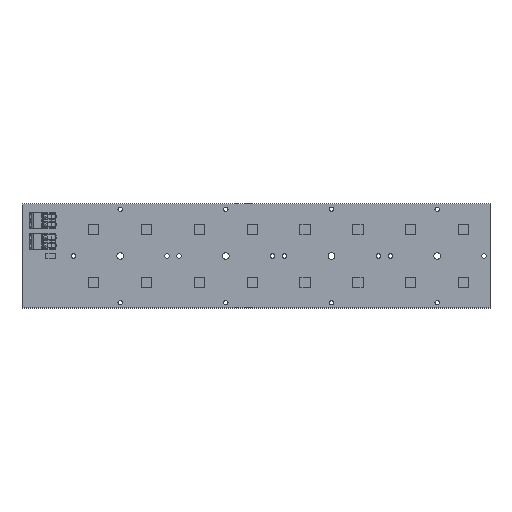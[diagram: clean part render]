
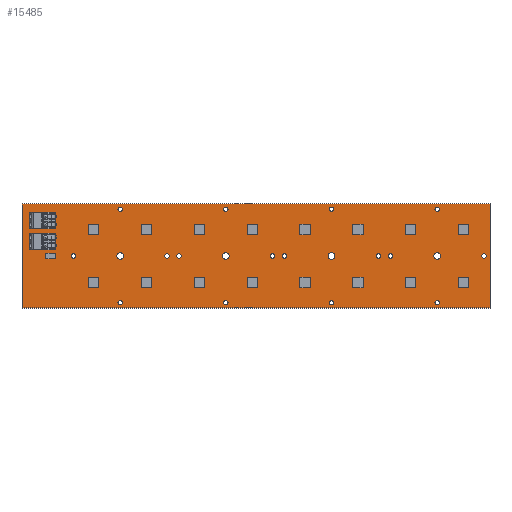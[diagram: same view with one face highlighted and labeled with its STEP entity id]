
A CAD part, top view. The second image highlights one B-rep face of the part: STEP entity #15485.
In plain terms, the highlighted planar face has unit normal (0, 0, 1).
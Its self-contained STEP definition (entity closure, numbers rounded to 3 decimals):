
#14636 = VERTEX_POINT('',#14637);
#14637 = CARTESIAN_POINT('',(0.,0.,0.));
#14643 = EDGE_CURVE('',#14636,#14644,#14646,.T.);
#14644 = VERTEX_POINT('',#14645);
#14645 = CARTESIAN_POINT('',(0.,50.,0.));
#14646 = LINE('',#14647,#14648);
#14647 = CARTESIAN_POINT('',(0.,0.,0.));
#14648 = VECTOR('',#14649,1.);
#14649 = DIRECTION('',(0.,1.,0.));
#14674 = EDGE_CURVE('',#14644,#14675,#14677,.T.);
#14675 = VERTEX_POINT('',#14676);
#14676 = CARTESIAN_POINT('',(225.,50.,0.));
#14677 = LINE('',#14678,#14679);
#14678 = CARTESIAN_POINT('',(0.,50.,0.));
#14679 = VECTOR('',#14680,1.);
#14680 = DIRECTION('',(1.,0.,0.));
#14705 = EDGE_CURVE('',#14675,#14706,#14708,.T.);
#14706 = VERTEX_POINT('',#14707);
#14707 = CARTESIAN_POINT('',(225.,0.,0.));
#14708 = LINE('',#14709,#14710);
#14709 = CARTESIAN_POINT('',(225.,50.,0.));
#14710 = VECTOR('',#14711,1.);
#14711 = DIRECTION('',(0.,-1.,0.));
#14736 = EDGE_CURVE('',#14706,#14636,#14737,.T.);
#14737 = LINE('',#14738,#14739);
#14738 = CARTESIAN_POINT('',(225.,0.,0.));
#14739 = VECTOR('',#14740,1.);
#14740 = DIRECTION('',(-1.,0.,0.));
#14760 = VERTEX_POINT('',#14761);
#14761 = CARTESIAN_POINT('',(48.25,2.5,0.));
#14767 = EDGE_CURVE('',#14760,#14760,#14768,.T.);
#14768 = CIRCLE('',#14769,1.05);
#14769 = AXIS2_PLACEMENT_3D('',#14770,#14771,#14772);
#14770 = CARTESIAN_POINT('',(47.2,2.5,0.));
#14771 = DIRECTION('',(0.,0.,1.));
#14772 = DIRECTION('',(1.,0.,0.));
#14793 = VERTEX_POINT('',#14794);
#14794 = CARTESIAN_POINT('',(25.75,25.,0.));
#14800 = EDGE_CURVE('',#14793,#14793,#14801,.T.);
#14801 = CIRCLE('',#14802,1.05);
#14802 = AXIS2_PLACEMENT_3D('',#14803,#14804,#14805);
#14803 = CARTESIAN_POINT('',(24.7,25.,0.));
#14804 = DIRECTION('',(0.,0.,1.));
#14805 = DIRECTION('',(1.,0.,0.));
#14826 = VERTEX_POINT('',#14827);
#14827 = CARTESIAN_POINT('',(99.05,2.5,0.));
#14833 = EDGE_CURVE('',#14826,#14826,#14834,.T.);
#14834 = CIRCLE('',#14835,1.05);
#14835 = AXIS2_PLACEMENT_3D('',#14836,#14837,#14838);
#14836 = CARTESIAN_POINT('',(98.,2.5,0.));
#14837 = DIRECTION('',(0.,0.,1.));
#14838 = DIRECTION('',(1.,0.,0.));
#14859 = VERTEX_POINT('',#14860);
#14860 = CARTESIAN_POINT('',(48.8,25.,0.));
#14866 = EDGE_CURVE('',#14859,#14859,#14867,.T.);
#14867 = CIRCLE('',#14868,1.6);
#14868 = AXIS2_PLACEMENT_3D('',#14869,#14870,#14871);
#14869 = CARTESIAN_POINT('',(47.2,25.,0.));
#14870 = DIRECTION('',(0.,0.,1.));
#14871 = DIRECTION('',(1.,0.,0.));
#14892 = VERTEX_POINT('',#14893);
#14893 = CARTESIAN_POINT('',(99.6,25.,0.));
#14899 = EDGE_CURVE('',#14892,#14892,#14900,.T.);
#14900 = CIRCLE('',#14901,1.6);
#14901 = AXIS2_PLACEMENT_3D('',#14902,#14903,#14904);
#14902 = CARTESIAN_POINT('',(98.,25.,0.));
#14903 = DIRECTION('',(0.,0.,1.));
#14904 = DIRECTION('',(1.,0.,0.));
#14925 = VERTEX_POINT('',#14926);
#14926 = CARTESIAN_POINT('',(70.75,25.,0.));
#14932 = EDGE_CURVE('',#14925,#14925,#14933,.T.);
#14933 = CIRCLE('',#14934,1.05);
#14934 = AXIS2_PLACEMENT_3D('',#14935,#14936,#14937);
#14935 = CARTESIAN_POINT('',(69.7,25.,0.));
#14936 = DIRECTION('',(0.,0.,1.));
#14937 = DIRECTION('',(1.,0.,0.));
#14958 = VERTEX_POINT('',#14959);
#14959 = CARTESIAN_POINT('',(48.25,47.5,0.));
#14965 = EDGE_CURVE('',#14958,#14958,#14966,.T.);
#14966 = CIRCLE('',#14967,1.05);
#14967 = AXIS2_PLACEMENT_3D('',#14968,#14969,#14970);
#14968 = CARTESIAN_POINT('',(47.2,47.5,0.));
#14969 = DIRECTION('',(0.,0.,1.));
#14970 = DIRECTION('',(1.,0.,0.));
#14991 = VERTEX_POINT('',#14992);
#14992 = CARTESIAN_POINT('',(76.55,25.,0.));
#14998 = EDGE_CURVE('',#14991,#14991,#14999,.T.);
#14999 = CIRCLE('',#15000,1.05);
#15000 = AXIS2_PLACEMENT_3D('',#15001,#15002,#15003);
#15001 = CARTESIAN_POINT('',(75.5,25.,0.));
#15002 = DIRECTION('',(0.,0.,1.));
#15003 = DIRECTION('',(1.,0.,0.));
#15024 = VERTEX_POINT('',#15025);
#15025 = CARTESIAN_POINT('',(99.05,47.5,0.));
#15031 = EDGE_CURVE('',#15024,#15024,#15032,.T.);
#15032 = CIRCLE('',#15033,1.05);
#15033 = AXIS2_PLACEMENT_3D('',#15034,#15035,#15036);
#15034 = CARTESIAN_POINT('',(98.,47.5,0.));
#15035 = DIRECTION('',(0.,0.,1.));
#15036 = DIRECTION('',(1.,0.,0.));
#15057 = VERTEX_POINT('',#15058);
#15058 = CARTESIAN_POINT('',(121.55,25.,0.));
#15064 = EDGE_CURVE('',#15057,#15057,#15065,.T.);
#15065 = CIRCLE('',#15066,1.05);
#15066 = AXIS2_PLACEMENT_3D('',#15067,#15068,#15069);
#15067 = CARTESIAN_POINT('',(120.5,25.,0.));
#15068 = DIRECTION('',(0.,0.,1.));
#15069 = DIRECTION('',(1.,0.,0.));
#15090 = VERTEX_POINT('',#15091);
#15091 = CARTESIAN_POINT('',(149.85,2.5,0.));
#15097 = EDGE_CURVE('',#15090,#15090,#15098,.T.);
#15098 = CIRCLE('',#15099,1.05);
#15099 = AXIS2_PLACEMENT_3D('',#15100,#15101,#15102);
#15100 = CARTESIAN_POINT('',(148.8,2.5,0.));
#15101 = DIRECTION('',(0.,0.,1.));
#15102 = DIRECTION('',(1.,0.,0.));
#15123 = VERTEX_POINT('',#15124);
#15124 = CARTESIAN_POINT('',(127.35,25.,0.));
#15130 = EDGE_CURVE('',#15123,#15123,#15131,.T.);
#15131 = CIRCLE('',#15132,1.05);
#15132 = AXIS2_PLACEMENT_3D('',#15133,#15134,#15135);
#15133 = CARTESIAN_POINT('',(126.3,25.,0.));
#15134 = DIRECTION('',(0.,0.,1.));
#15135 = DIRECTION('',(1.,0.,0.));
#15156 = VERTEX_POINT('',#15157);
#15157 = CARTESIAN_POINT('',(200.65,2.5,0.));
#15163 = EDGE_CURVE('',#15156,#15156,#15164,.T.);
#15164 = CIRCLE('',#15165,1.05);
#15165 = AXIS2_PLACEMENT_3D('',#15166,#15167,#15168);
#15166 = CARTESIAN_POINT('',(199.6,2.5,0.));
#15167 = DIRECTION('',(0.,0.,1.));
#15168 = DIRECTION('',(1.,0.,0.));
#15189 = VERTEX_POINT('',#15190);
#15190 = CARTESIAN_POINT('',(150.4,25.,0.));
#15196 = EDGE_CURVE('',#15189,#15189,#15197,.T.);
#15197 = CIRCLE('',#15198,1.6);
#15198 = AXIS2_PLACEMENT_3D('',#15199,#15200,#15201);
#15199 = CARTESIAN_POINT('',(148.8,25.,0.));
#15200 = DIRECTION('',(0.,0.,1.));
#15201 = DIRECTION('',(1.,0.,0.));
#15222 = VERTEX_POINT('',#15223);
#15223 = CARTESIAN_POINT('',(201.2,25.,0.));
#15229 = EDGE_CURVE('',#15222,#15222,#15230,.T.);
#15230 = CIRCLE('',#15231,1.6);
#15231 = AXIS2_PLACEMENT_3D('',#15232,#15233,#15234);
#15232 = CARTESIAN_POINT('',(199.6,25.,0.));
#15233 = DIRECTION('',(0.,0.,1.));
#15234 = DIRECTION('',(1.,0.,0.));
#15255 = VERTEX_POINT('',#15256);
#15256 = CARTESIAN_POINT('',(172.35,25.,0.));
#15262 = EDGE_CURVE('',#15255,#15255,#15263,.T.);
#15263 = CIRCLE('',#15264,1.05);
#15264 = AXIS2_PLACEMENT_3D('',#15265,#15266,#15267);
#15265 = CARTESIAN_POINT('',(171.3,25.,0.));
#15266 = DIRECTION('',(0.,0.,1.));
#15267 = DIRECTION('',(1.,0.,0.));
#15288 = VERTEX_POINT('',#15289);
#15289 = CARTESIAN_POINT('',(149.85,47.5,0.));
#15295 = EDGE_CURVE('',#15288,#15288,#15296,.T.);
#15296 = CIRCLE('',#15297,1.05);
#15297 = AXIS2_PLACEMENT_3D('',#15298,#15299,#15300);
#15298 = CARTESIAN_POINT('',(148.8,47.5,0.));
#15299 = DIRECTION('',(0.,0.,1.));
#15300 = DIRECTION('',(1.,0.,0.));
#15321 = VERTEX_POINT('',#15322);
#15322 = CARTESIAN_POINT('',(178.15,25.,0.));
#15328 = EDGE_CURVE('',#15321,#15321,#15329,.T.);
#15329 = CIRCLE('',#15330,1.05);
#15330 = AXIS2_PLACEMENT_3D('',#15331,#15332,#15333);
#15331 = CARTESIAN_POINT('',(177.1,25.,0.));
#15332 = DIRECTION('',(0.,0.,1.));
#15333 = DIRECTION('',(1.,0.,0.));
#15354 = VERTEX_POINT('',#15355);
#15355 = CARTESIAN_POINT('',(200.65,47.5,0.));
#15361 = EDGE_CURVE('',#15354,#15354,#15362,.T.);
#15362 = CIRCLE('',#15363,1.05);
#15363 = AXIS2_PLACEMENT_3D('',#15364,#15365,#15366);
#15364 = CARTESIAN_POINT('',(199.6,47.5,0.));
#15365 = DIRECTION('',(0.,0.,1.));
#15366 = DIRECTION('',(1.,0.,0.));
#15387 = VERTEX_POINT('',#15388);
#15388 = CARTESIAN_POINT('',(223.15,25.,0.));
#15394 = EDGE_CURVE('',#15387,#15387,#15395,.T.);
#15395 = CIRCLE('',#15396,1.05);
#15396 = AXIS2_PLACEMENT_3D('',#15397,#15398,#15399);
#15397 = CARTESIAN_POINT('',(222.1,25.,0.));
#15398 = DIRECTION('',(0.,0.,1.));
#15399 = DIRECTION('',(1.,0.,0.));
#15485 = ADVANCED_FACE('',(#15486,#15492,#15495,#15498,#15501,#15504,
    #15507,#15510,#15513,#15516,#15519,#15522,#15525,#15528,#15531,
    #15534,#15537,#15540,#15543,#15546,#15549),#15552,.T.);
#15486 = FACE_BOUND('',#15487,.F.);
#15487 = EDGE_LOOP('',(#15488,#15489,#15490,#15491));
#15488 = ORIENTED_EDGE('',*,*,#14643,.T.);
#15489 = ORIENTED_EDGE('',*,*,#14674,.T.);
#15490 = ORIENTED_EDGE('',*,*,#14705,.T.);
#15491 = ORIENTED_EDGE('',*,*,#14736,.T.);
#15492 = FACE_BOUND('',#15493,.T.);
#15493 = EDGE_LOOP('',(#15494));
#15494 = ORIENTED_EDGE('',*,*,#14767,.F.);
#15495 = FACE_BOUND('',#15496,.T.);
#15496 = EDGE_LOOP('',(#15497));
#15497 = ORIENTED_EDGE('',*,*,#14800,.F.);
#15498 = FACE_BOUND('',#15499,.T.);
#15499 = EDGE_LOOP('',(#15500));
#15500 = ORIENTED_EDGE('',*,*,#14833,.F.);
#15501 = FACE_BOUND('',#15502,.T.);
#15502 = EDGE_LOOP('',(#15503));
#15503 = ORIENTED_EDGE('',*,*,#14866,.F.);
#15504 = FACE_BOUND('',#15505,.T.);
#15505 = EDGE_LOOP('',(#15506));
#15506 = ORIENTED_EDGE('',*,*,#14899,.F.);
#15507 = FACE_BOUND('',#15508,.T.);
#15508 = EDGE_LOOP('',(#15509));
#15509 = ORIENTED_EDGE('',*,*,#14932,.F.);
#15510 = FACE_BOUND('',#15511,.T.);
#15511 = EDGE_LOOP('',(#15512));
#15512 = ORIENTED_EDGE('',*,*,#14965,.F.);
#15513 = FACE_BOUND('',#15514,.T.);
#15514 = EDGE_LOOP('',(#15515));
#15515 = ORIENTED_EDGE('',*,*,#14998,.F.);
#15516 = FACE_BOUND('',#15517,.T.);
#15517 = EDGE_LOOP('',(#15518));
#15518 = ORIENTED_EDGE('',*,*,#15031,.F.);
#15519 = FACE_BOUND('',#15520,.T.);
#15520 = EDGE_LOOP('',(#15521));
#15521 = ORIENTED_EDGE('',*,*,#15064,.F.);
#15522 = FACE_BOUND('',#15523,.T.);
#15523 = EDGE_LOOP('',(#15524));
#15524 = ORIENTED_EDGE('',*,*,#15097,.F.);
#15525 = FACE_BOUND('',#15526,.T.);
#15526 = EDGE_LOOP('',(#15527));
#15527 = ORIENTED_EDGE('',*,*,#15130,.F.);
#15528 = FACE_BOUND('',#15529,.T.);
#15529 = EDGE_LOOP('',(#15530));
#15530 = ORIENTED_EDGE('',*,*,#15163,.F.);
#15531 = FACE_BOUND('',#15532,.T.);
#15532 = EDGE_LOOP('',(#15533));
#15533 = ORIENTED_EDGE('',*,*,#15196,.F.);
#15534 = FACE_BOUND('',#15535,.T.);
#15535 = EDGE_LOOP('',(#15536));
#15536 = ORIENTED_EDGE('',*,*,#15229,.F.);
#15537 = FACE_BOUND('',#15538,.T.);
#15538 = EDGE_LOOP('',(#15539));
#15539 = ORIENTED_EDGE('',*,*,#15262,.F.);
#15540 = FACE_BOUND('',#15541,.T.);
#15541 = EDGE_LOOP('',(#15542));
#15542 = ORIENTED_EDGE('',*,*,#15295,.F.);
#15543 = FACE_BOUND('',#15544,.T.);
#15544 = EDGE_LOOP('',(#15545));
#15545 = ORIENTED_EDGE('',*,*,#15328,.F.);
#15546 = FACE_BOUND('',#15547,.T.);
#15547 = EDGE_LOOP('',(#15548));
#15548 = ORIENTED_EDGE('',*,*,#15361,.F.);
#15549 = FACE_BOUND('',#15550,.T.);
#15550 = EDGE_LOOP('',(#15551));
#15551 = ORIENTED_EDGE('',*,*,#15394,.F.);
#15552 = PLANE('',#15553);
#15553 = AXIS2_PLACEMENT_3D('',#15554,#15555,#15556);
#15554 = CARTESIAN_POINT('',(0.,0.,0.));
#15555 = DIRECTION('',(0.,0.,1.));
#15556 = DIRECTION('',(1.,0.,0.));
